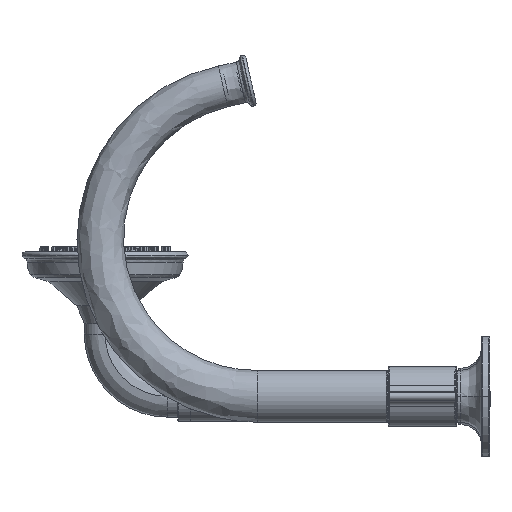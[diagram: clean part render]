
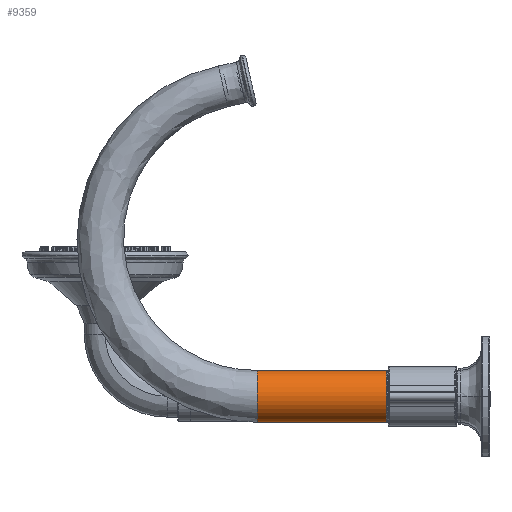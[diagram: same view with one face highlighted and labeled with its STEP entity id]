
A CAD part, left-side view. The second image highlights one B-rep face of the part: STEP entity #9359.
In plain terms, the highlighted cylindrical face has radius 12.5 mm (diameter 25 mm), a partial arc.
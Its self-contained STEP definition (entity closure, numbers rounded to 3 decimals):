
#9040=CARTESIAN_POINT('',(150.0,112.0,-12.5));
#9041=VERTEX_POINT('',#9040);
#9172=CARTESIAN_POINT('',(150.0,112.0,12.5));
#9173=VERTEX_POINT('',#9172);
#9310=CARTESIAN_POINT('',(150.0,14.0,12.5));
#9311=VERTEX_POINT('',#9310);
#9312=CARTESIAN_POINT('',(150.0,112.0,12.5));
#9313=DIRECTION('',(0.0,-1.0,0.0));
#9314=VECTOR('',#9313,98.0);
#9315=LINE('',#9312,#9314);
#9316=EDGE_CURVE('',#9173,#9311,#9315,.T.);
#9318=CARTESIAN_POINT('',(150.0,14.0,-12.5));
#9319=VERTEX_POINT('',#9318);
#9327=CARTESIAN_POINT('',(150.0,14.0,-12.5));
#9328=DIRECTION('',(0.0,1.0,0.0));
#9329=VECTOR('',#9328,98.0);
#9330=LINE('',#9327,#9329);
#9331=EDGE_CURVE('',#9319,#9041,#9330,.T.);
#9336=CARTESIAN_POINT('',(150.0,14.,0.0));
#9337=DIRECTION('',(0.0,1.0,0.0));
#9338=DIRECTION('',(1.0,0.0,0.0));
#9339=AXIS2_PLACEMENT_3D('',#9336,#9337,#9338);
#9340=CYLINDRICAL_SURFACE('',#9339,12.5);
#9341=CARTESIAN_POINT('',(150.0,112.0,0.));
#9342=DIRECTION('',(0.0,1.0,0.0));
#9343=DIRECTION('',(0.0,0.0,-1.0));
#9344=AXIS2_PLACEMENT_3D('',#9341,#9342,#9343);
#9345=CIRCLE('',#9344,12.5);
#9346=EDGE_CURVE('',#9041,#9173,#9345,.T.);
#9347=ORIENTED_EDGE('',*,*,#9346,.F.);
#9348=ORIENTED_EDGE('',*,*,#9331,.F.);
#9349=CARTESIAN_POINT('',(150.0,14.0,0.0));
#9350=DIRECTION('',(0.0,1.0,0.0));
#9351=DIRECTION('',(0.0,0.0,-1.0));
#9352=AXIS2_PLACEMENT_3D('',#9349,#9350,#9351);
#9353=CIRCLE('',#9352,12.5);
#9354=EDGE_CURVE('',#9319,#9311,#9353,.T.);
#9355=ORIENTED_EDGE('',*,*,#9354,.T.);
#9356=ORIENTED_EDGE('',*,*,#9316,.F.);
#9357=EDGE_LOOP('',(#9347,#9348,#9355,#9356));
#9358=FACE_OUTER_BOUND('',#9357,.T.);
#9359=ADVANCED_FACE('',(#9358),#9340,.T.);
